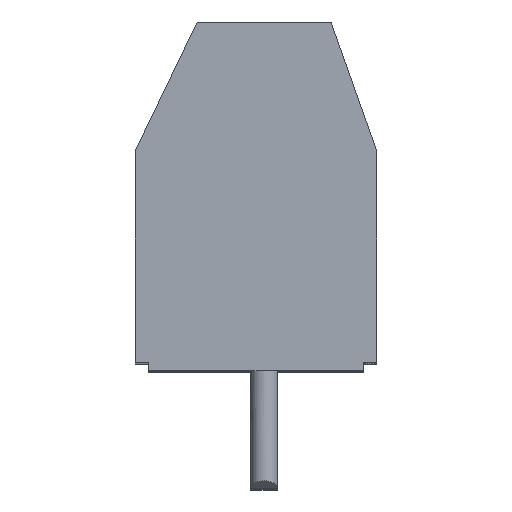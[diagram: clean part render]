
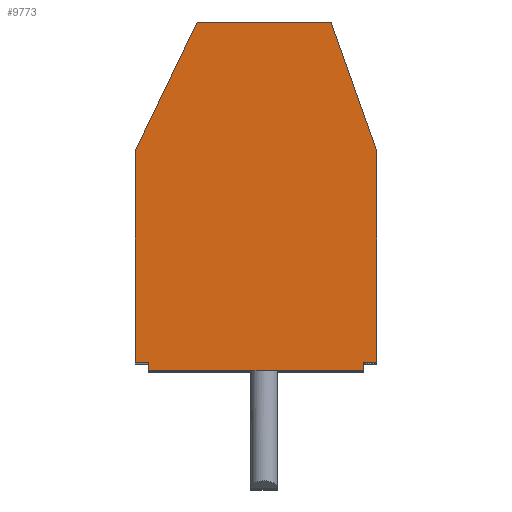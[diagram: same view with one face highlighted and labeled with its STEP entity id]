
A CAD part, top view. The second image highlights one B-rep face of the part: STEP entity #9773.
In plain terms, the highlighted planar face has unit normal (0, 0, 1).
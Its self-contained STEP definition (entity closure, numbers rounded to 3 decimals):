
#217 = EDGE_CURVE ( 'NONE', #8397, #5574, #3148, .T. ) ;
#373 = CARTESIAN_POINT ( 'NONE',  ( 3.924, 5.814, -12.503 ) ) ;
#444 = VERTEX_POINT ( 'NONE', #3647 ) ;
#476 = VERTEX_POINT ( 'NONE', #7520 ) ;
#521 = ORIENTED_EDGE ( 'NONE', *, *, #7170, .F. ) ;
#525 = CARTESIAN_POINT ( 'NONE',  ( -2.776, 10.614, -12.503 ) ) ;
#688 = DIRECTION ( 'NONE',  ( -1., 0., 0. ) ) ;
#775 = ORIENTED_EDGE ( 'NONE', *, *, #8885, .F. ) ;
#828 = AXIS2_PLACEMENT_3D ( 'NONE', #8088, #5730, #6424 ) ;
#883 = EDGE_LOOP ( 'NONE', ( #1655, #775, #6958, #8448, #4431, #3900, #521, #1056, #8139, #3690 ) ) ;
#1056 = ORIENTED_EDGE ( 'NONE', *, *, #1561, .F. ) ;
#1288 = VECTOR ( 'NONE', #8920, 1000. ) ;
#1561 = EDGE_CURVE ( 'NONE', #8173, #4354, #6961, .T. ) ;
#1649 = LINE ( 'NONE', #6789, #3202 ) ;
#1655 = ORIENTED_EDGE ( 'NONE', *, *, #2638, .T. ) ;
#1857 = CARTESIAN_POINT ( 'NONE',  ( -5.076, 5.814, -12.503 ) ) ;
#2004 = VECTOR ( 'NONE', #7034, 1000. ) ;
#2008 = CARTESIAN_POINT ( 'NONE',  ( 2.224, 10.614, -12.503 ) ) ;
#2524 = CARTESIAN_POINT ( 'NONE',  ( -4.576, -2.086, -12.503 ) ) ;
#2587 = CARTESIAN_POINT ( 'NONE',  ( -4.576, -2.386, -12.503 ) ) ;
#2638 = EDGE_CURVE ( 'NONE', #444, #476, #3105, .T. ) ;
#2685 = CARTESIAN_POINT ( 'NONE',  ( -4.576, -2.386, -12.503 ) ) ;
#3105 = LINE ( 'NONE', #4929, #6459 ) ;
#3141 = VERTEX_POINT ( 'NONE', #8683 ) ;
#3148 = LINE ( 'NONE', #373, #4814 ) ;
#3202 = VECTOR ( 'NONE', #6005, 1000. ) ;
#3305 = LINE ( 'NONE', #525, #1288 ) ;
#3479 = EDGE_CURVE ( 'NONE', #444, #4070, #6194, .T. ) ;
#3647 = CARTESIAN_POINT ( 'NONE',  ( 3.424, -2.386, -12.503 ) ) ;
#3690 = ORIENTED_EDGE ( 'NONE', *, *, #3479, .F. ) ;
#3808 = CARTESIAN_POINT ( 'NONE',  ( 3.924, -2.086, -12.503 ) ) ;
#3900 = ORIENTED_EDGE ( 'NONE', *, *, #9885, .F. ) ;
#4070 = VERTEX_POINT ( 'NONE', #2587 ) ;
#4073 = CARTESIAN_POINT ( 'NONE',  ( 2.224, 10.614, -12.503 ) ) ;
#4211 = EDGE_CURVE ( 'NONE', #3141, #8657, #3305, .T. ) ;
#4349 = VECTOR ( 'NONE', #688, 1000. ) ;
#4354 = VERTEX_POINT ( 'NONE', #6667 ) ;
#4431 = ORIENTED_EDGE ( 'NONE', *, *, #4211, .F. ) ;
#4814 = VECTOR ( 'NONE', #8796, 1000. ) ;
#4929 = CARTESIAN_POINT ( 'NONE',  ( 3.424, -2.386, -12.503 ) ) ;
#4950 = LINE ( 'NONE', #9048, #4349 ) ;
#5168 = VECTOR ( 'NONE', #5834, 1000. ) ;
#5299 = EDGE_CURVE ( 'NONE', #4070, #8173, #8164, .T. ) ;
#5574 = VERTEX_POINT ( 'NONE', #9210 ) ;
#5730 = DIRECTION ( 'NONE',  ( 0., 0., -1. ) ) ;
#5834 = DIRECTION ( 'NONE',  ( 0.334, -0.943, 0. ) ) ;
#5869 = CARTESIAN_POINT ( 'NONE',  ( -5.076, 5.814, -12.503 ) ) ;
#6005 = DIRECTION ( 'NONE',  ( 0., 1., 0. ) ) ;
#6135 = LINE ( 'NONE', #5869, #8085 ) ;
#6194 = LINE ( 'NONE', #6227, #2004 ) ;
#6227 = CARTESIAN_POINT ( 'NONE',  ( -4.576, -2.386, -12.503 ) ) ;
#6269 = VERTEX_POINT ( 'NONE', #1857 ) ;
#6364 = VECTOR ( 'NONE', #9212, 1000. ) ;
#6424 = DIRECTION ( 'NONE',  ( -1., 0., 0. ) ) ;
#6459 = VECTOR ( 'NONE', #8076, 1000. ) ;
#6667 = CARTESIAN_POINT ( 'NONE',  ( -5.076, -2.086, -12.503 ) ) ;
#6789 = CARTESIAN_POINT ( 'NONE',  ( -5.076, -2.086, -12.503 ) ) ;
#6955 = CARTESIAN_POINT ( 'NONE',  ( 3.924, 5.814, -12.503 ) ) ;
#6958 = ORIENTED_EDGE ( 'NONE', *, *, #217, .F. ) ;
#6961 = LINE ( 'NONE', #3808, #6364 ) ;
#7034 = DIRECTION ( 'NONE',  ( -1., 0., 0. ) ) ;
#7170 = EDGE_CURVE ( 'NONE', #4354, #6269, #1649, .T. ) ;
#7205 = PLANE ( 'NONE',  #828 ) ;
#7520 = CARTESIAN_POINT ( 'NONE',  ( 3.424, -2.086, -12.503 ) ) ;
#7682 = VECTOR ( 'NONE', #9686, 1000. ) ;
#7847 = FACE_OUTER_BOUND ( 'NONE', #883, .T. ) ;
#8076 = DIRECTION ( 'NONE',  ( 0., 1., 0. ) ) ;
#8085 = VECTOR ( 'NONE', #9775, 1000. ) ;
#8088 = CARTESIAN_POINT ( 'NONE',  ( -4.576, -2.386, -12.503 ) ) ;
#8139 = ORIENTED_EDGE ( 'NONE', *, *, #5299, .F. ) ;
#8164 = LINE ( 'NONE', #2685, #7682 ) ;
#8173 = VERTEX_POINT ( 'NONE', #2524 ) ;
#8397 = VERTEX_POINT ( 'NONE', #6955 ) ;
#8448 = ORIENTED_EDGE ( 'NONE', *, *, #9855, .F. ) ;
#8454 = LINE ( 'NONE', #2008, #5168 ) ;
#8657 = VERTEX_POINT ( 'NONE', #4073 ) ;
#8683 = CARTESIAN_POINT ( 'NONE',  ( -2.776, 10.614, -12.503 ) ) ;
#8796 = DIRECTION ( 'NONE',  ( 0., -1., 0. ) ) ;
#8885 = EDGE_CURVE ( 'NONE', #5574, #476, #4950, .T. ) ;
#8920 = DIRECTION ( 'NONE',  ( 1., 0., 0. ) ) ;
#9048 = CARTESIAN_POINT ( 'NONE',  ( 3.924, -2.086, -12.503 ) ) ;
#9210 = CARTESIAN_POINT ( 'NONE',  ( 3.924, -2.086, -12.503 ) ) ;
#9212 = DIRECTION ( 'NONE',  ( -1., 0., 0. ) ) ;
#9686 = DIRECTION ( 'NONE',  ( 0., 1., 0. ) ) ;
#9773 = ADVANCED_FACE ( 'NONE', ( #7847 ), #7205, .F. ) ;
#9775 = DIRECTION ( 'NONE',  ( 0.432, 0.902, 0. ) ) ;
#9855 = EDGE_CURVE ( 'NONE', #8657, #8397, #8454, .T. ) ;
#9885 = EDGE_CURVE ( 'NONE', #6269, #3141, #6135, .T. ) ;
